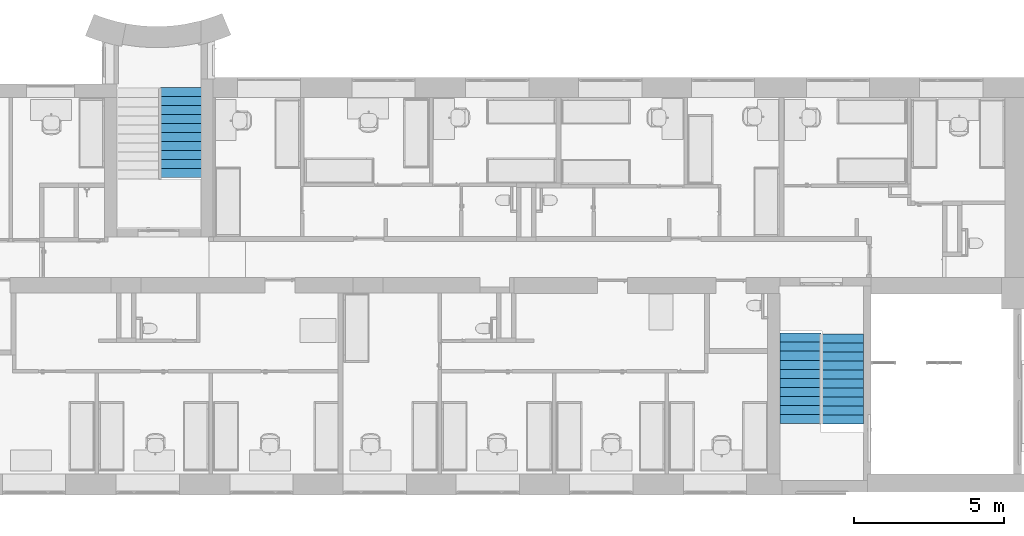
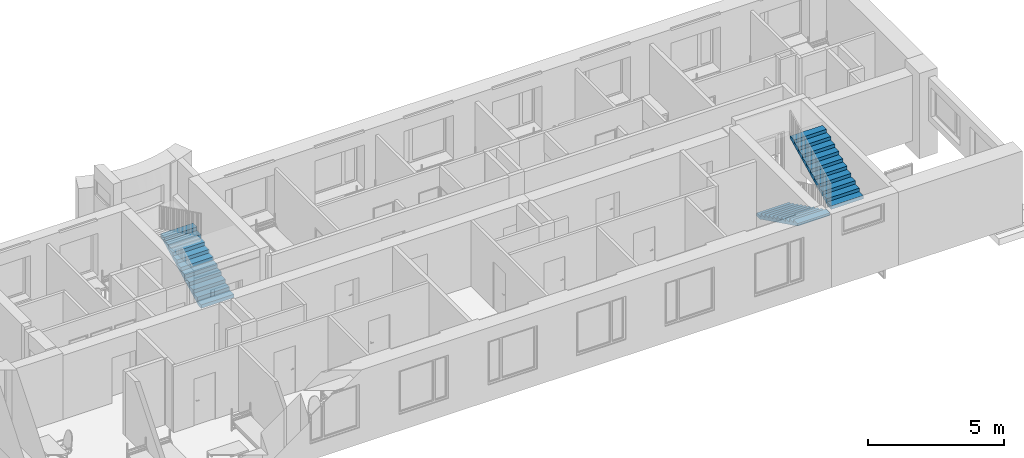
# One storey, part 21 of 46: 3 stair flights, 3 elements without a shape of their own.
"""IFC2X3 building model written with IfcOpenShell, lengths in millimetres."""

import ifcopenshell
import ifcopenshell.guid

model = None  # the IFC model being written
_history = None  # IfcOwnerHistory: only IFC2X3 demands one
_inside = {}  # id of a spatial element -> (the spatial element, [elements in it])
_under = {}  # id of a project, library or spatial element -> (it, [spatial elements below it])
_declared = {}  # id of a project -> (the project, [libraries it declares])
_typed = {}  # id of a type object -> (the type object, [elements of that type])
_made_of = {}  # id of a material, layer set ... -> (it, [elements and type objects made of it])


def new_model(schema):
    """Start an empty IFC model of exactly this schema.

    Asked for "IFC4X3", IfcOpenShell would pick the latest addendum, in which some entities
    have other attributes; the version numbers below select the first issue.
    IFC2X3 requires an IfcOwnerHistory on every rooted entity: one is made here for all.
    """
    global model, _history
    if schema == "IFC4X3":
        model = ifcopenshell.file(schema_version=(4, 3, 0, 0))
    else:
        model = ifcopenshell.file(schema=schema)
    _inside.clear()
    _under.clear()
    _declared.clear()
    _typed.clear()
    _made_of.clear()
    _history = None
    if model.schema == "IFC2X3":
        org = make("IfcOrganization", Name="unknown")
        user = make(
            "IfcPersonAndOrganization",
            ThePerson=make("IfcPerson", FamilyName="unknown"),
            TheOrganization=org,
        )
        app = make(
            "IfcApplication",
            ApplicationDeveloper=org,
            Version="unknown",
            ApplicationFullName="unknown",
            ApplicationIdentifier="unknown",
        )
        _history = make(
            "IfcOwnerHistory",
            OwningUser=user,
            OwningApplication=app,
            ChangeAction="ADDED",
            CreationDate=0,
        )
    return model


def make(cls, **values):
    """One entity of the class cls with the attributes given. An attribute that is None is left unset."""
    return model.create_entity(
        cls, **{name: value for name, value in values.items() if value is not None}
    )


def entity(cls, *values):
    """Any entity or typed value of the class cls, its attributes in the order of the schema. None: left unset."""
    e = model.create_entity(cls)
    for i, value in enumerate(values):
        if value is not None:
            e[i] = value
    return e


def rooted(cls, **values):
    """An entity with a GlobalId (a new one), such as an element, a storey or a relation."""
    return make(cls, GlobalId=ifcopenshell.guid.new(), OwnerHistory=_history, **values)


def si_unit(unit_type, name, prefix=None):
    """IfcSIUnit, for example si_unit("LENGTHUNIT", "METRE", prefix="MILLI")."""
    return make("IfcSIUnit", UnitType=unit_type, Prefix=prefix, Name=name)


def converted_unit(unit_type, name, factor, base, dimensions=None, offset=None):
    """IfcConversionBasedUnit, such as the inch: factor (a typed value) times the base unit."""
    return make(
        "IfcConversionBasedUnit"
        if offset is None
        else "IfcConversionBasedUnitWithOffset",
        ConversionOffset=offset,
        Dimensions=None
        if dimensions is None
        else entity("IfcDimensionalExponents", *dimensions),
        UnitType=unit_type,
        Name=name,
        ConversionFactor=make(
            "IfcMeasureWithUnit", ValueComponent=factor, UnitComponent=base
        ),
    )


def derived_unit(unit_type, elements):
    """IfcDerivedUnit: a product of units, each with its exponent."""
    return make(
        "IfcDerivedUnit",
        Elements=[
            make("IfcDerivedUnitElement", Unit=unit, Exponent=power)
            for unit, power in elements
        ],
        UnitType=unit_type,
    )


def assignment(units):
    """IfcUnitAssignment: the units of a project."""
    return None if units is None else make("IfcUnitAssignment", Units=units)


def point(xyz):
    """IfcCartesianPoint."""
    return None if xyz is None else make("IfcCartesianPoint", Coordinates=xyz)


def direction(xyz):
    """IfcDirection."""
    return None if xyz is None else make("IfcDirection", DirectionRatios=xyz)


def frame(location, z_axis=None, x_axis=None):
    """IfcAxis2Placement3D, a coordinate frame: its origin and axes. An axis left out is left unset."""
    return make(
        "IfcAxis2Placement3D",
        Location=point(location),
        Axis=direction(z_axis),
        RefDirection=direction(x_axis),
    )


def origin():
    """The frame at (0, 0, 0) with its axes left unset."""
    return frame((0.0, 0.0, 0.0))


def place(relative_to, where):
    """IfcLocalPlacement: puts the frame where relative to a parent placement (None: the world)."""
    return make(
        "IfcLocalPlacement", PlacementRelTo=relative_to, RelativePlacement=where
    )


def context(
    kind, dimensions, precision=None, world=None, true_north=None, identifier=None
):
    """IfcGeometricRepresentationContext, for example the 3D "Model" context."""
    return make(
        "IfcGeometricRepresentationContext",
        ContextIdentifier=identifier,
        ContextType=kind,
        CoordinateSpaceDimension=dimensions,
        Precision=precision,
        WorldCoordinateSystem=world,
        TrueNorth=true_north,
    )


def subcontext(parent, identifier, kind, view, scale=None):
    """IfcGeometricRepresentationSubContext, for example "Body" below "Model"."""
    return make(
        "IfcGeometricRepresentationSubContext",
        ContextIdentifier=identifier,
        ContextType=kind,
        ParentContext=parent,
        TargetScale=scale,
        TargetView=view,
    )


def project(units=None, contexts=None):
    """IfcProject with its units and contexts."""
    return rooted(
        "IfcProject",
        Name="project",
        RepresentationContexts=contexts,
        UnitsInContext=assignment(units),
    )


def spatial(cls, under=None, at=None, **own):
    """A site, building, storey or space (cls), placed at a placement, below another one or the project."""
    s = rooted(cls, ObjectPlacement=at, **own)
    if under is not None:
        _under.setdefault(under.id(), (under, []))[1].append(s)
    return s


def faces_of(points, faces, orient=None, outer=None):
    """IfcFace entities. A face is a list of loops; a loop is a list of indices into points, from 0.

    orient and outer hold one flag for each loop. By default every Orientation is true, the
    first loop of a face is its IfcFaceOuterBound and the others are IfcFaceBound.
    """
    made = []
    for i, loops in enumerate(faces):
        bounds = []
        for j, loop in enumerate(loops):
            is_outer = j == 0 if outer is None else outer[i][j]
            bounds.append(
                make(
                    "IfcFaceOuterBound" if is_outer else "IfcFaceBound",
                    Bound=make("IfcPolyLoop", Polygon=[points[k] for k in loop]),
                    Orientation=True if orient is None else orient[i][j],
                )
            )
        made.append(make("IfcFace", Bounds=bounds))
    return made


def faceted_brep(points, faces, orient=None, outer=None, voids=None):
    """IfcFacetedBrep: a solid bounded by flat faces; with voids (closed shells), ...WithVoids."""
    shared = [point(p) for p in points]
    hull = make("IfcClosedShell", CfsFaces=faces_of(shared, faces, orient, outer))
    if voids is None:
        return make("IfcFacetedBrep", Outer=hull)
    return make(
        "IfcFacetedBrepWithVoids",
        Outer=hull,
        Voids=[
            make(cls, CfsFaces=faces_of(shared, fs, o, b)) for cls, fs, o, b in voids
        ],
    )


def shape(context_of_items, identifier, shape_type, items):
    """IfcShapeRepresentation: the items that make up one representation, for example the "Body"."""
    return make(
        "IfcShapeRepresentation",
        ContextOfItems=context_of_items,
        RepresentationIdentifier=identifier,
        RepresentationType=shape_type,
        Items=items,
    )


def material(Name=None, Category=None):
    """IfcMaterial."""
    return make("IfcMaterial", Name=Name, Category=Category)


def made_of(thing, what):
    """Note that an element or type object is made of a material, layer set ...; save() writes the relation."""
    if what is not None:
        _made_of.setdefault(what.id(), (what, []))[1].append(thing)
    return thing


def type_object(cls, material=None, **own):
    """A type object (cls), such as IfcWallType, which elements share."""
    return made_of(rooted(cls, **own), material)


def element(
    cls,
    number,
    at=None,
    inside=None,
    cuts=None,
    type_object=None,
    material=None,
    context=None,
    identifier="Body",
    shape_type=None,
    held_by="IfcProductDefinitionShape",
    body=None,
    shapes=None,
    **own,
):
    """One element of the class cls, such as IfcWall. Its Tag is "e" and its number.

    at: its placement. inside: the storey or other place that contains it. cuts: it is an
    opening in that element (IfcRelVoidsElement). A single representation is given by context,
    identifier, shape_type and body (its items); several are given by shapes. held_by: the class
    of the entity that holds the representations. save() writes the other relations.
    """
    e = rooted(cls, Tag="e%d" % number, ObjectPlacement=at, **own)
    if body is not None:
        shapes = [shape(context, identifier, shape_type, body)]
    if shapes is not None:
        e.Representation = make(held_by, Representations=shapes)
    if inside is not None:
        _inside.setdefault(inside.id(), (inside, []))[1].append(e)
    if cuts is not None:
        rooted(
            "IfcRelVoidsElement", RelatingBuildingElement=cuts, RelatedOpeningElement=e
        )
    if type_object is not None:
        _typed.setdefault(type_object.id(), (type_object, []))[1].append(e)
    return made_of(e, material)


def aggregate(whole, parts):
    """IfcRelAggregates: a whole, such as a stair, and the parts it consists of."""
    return rooted("IfcRelAggregates", RelatingObject=whole, RelatedObjects=parts)


def save(model, path):
    """Write the relations noted so far, then the file.

    IfcRelAggregates (storeys below a building ...), IfcRelContainedInSpatialStructure (elements
    in a storey), IfcRelDefinesByType, IfcRelAssociatesMaterial and IfcRelDeclares: one each for
    every whole, place, type object, material and project.
    """
    for whole, parts in _under.values():
        aggregate(whole, parts)
    for where, things in _inside.values():
        rooted(
            "IfcRelContainedInSpatialStructure",
            RelatedElements=things,
            RelatingStructure=where,
        )
    for kind, things in _typed.values():
        rooted("IfcRelDefinesByType", RelatedObjects=things, RelatingType=kind)
    for what, things in _made_of.values():
        rooted("IfcRelAssociatesMaterial", RelatedObjects=things, RelatingMaterial=what)
    for by, libraries in _declared.values():
        rooted("IfcRelDeclares", RelatingContext=by, RelatedDefinitions=libraries)
    model.write(path)


model = new_model("IFC2X3")

# Units and contexts
model_context = context("Model", 3, precision=0.01, world=origin(), true_north=direction((6.12303176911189e-17, 1.0)))
body_context = subcontext(model_context, "Body", "Model", "MODEL_VIEW")
ifc_project = project(units=[si_unit("LENGTHUNIT", "METRE", prefix="MILLI"), si_unit("AREAUNIT", "SQUARE_METRE"), si_unit("VOLUMEUNIT", "CUBIC_METRE"), converted_unit("PLANEANGLEUNIT", "DEGREE", entity("IfcRatioMeasure", 0.0174532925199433), si_unit("PLANEANGLEUNIT", "RADIAN"), dimensions=[0, 0, 0, 0, 0, 0, 0]), si_unit("MASSUNIT", "GRAM", prefix="KILO"), derived_unit("MASSDENSITYUNIT", [(si_unit("MASSUNIT", "GRAM", prefix="KILO"), 1), (si_unit("LENGTHUNIT", "METRE"), -3)]), si_unit("TIMEUNIT", "SECOND"), si_unit("FREQUENCYUNIT", "HERTZ"), si_unit("THERMODYNAMICTEMPERATUREUNIT", "DEGREE_CELSIUS"), derived_unit("THERMALTRANSMITTANCEUNIT", [(si_unit("MASSUNIT", "GRAM", prefix="KILO"), 1), (si_unit("THERMODYNAMICTEMPERATUREUNIT", "KELVIN"), -1), (si_unit("TIMEUNIT", "SECOND"), -3)]), derived_unit("VOLUMETRICFLOWRATEUNIT", [(si_unit("LENGTHUNIT", "METRE"), 3), (si_unit("TIMEUNIT", "SECOND"), -1)]), si_unit("ELECTRICCURRENTUNIT", "AMPERE"), si_unit("ELECTRICVOLTAGEUNIT", "VOLT"), si_unit("POWERUNIT", "WATT"), si_unit("FORCEUNIT", "NEWTON", prefix="KILO"), si_unit("ILLUMINANCEUNIT", "LUX"), si_unit("LUMINOUSFLUXUNIT", "LUMEN"), si_unit("LUMINOUSINTENSITYUNIT", "CANDELA"), derived_unit("USERDEFINED", [(si_unit("MASSUNIT", "GRAM", prefix="KILO"), -1), (si_unit("LENGTHUNIT", "METRE"), -2), (si_unit("TIMEUNIT", "SECOND"), 3), (si_unit("LUMINOUSFLUXUNIT", "LUMEN"), 1)]), derived_unit("LINEARVELOCITYUNIT", [(si_unit("LENGTHUNIT", "METRE"), 1), (si_unit("TIMEUNIT", "SECOND"), -1)]), si_unit("PRESSUREUNIT", "PASCAL"), derived_unit("USERDEFINED", [(si_unit("LENGTHUNIT", "METRE"), -2), (si_unit("MASSUNIT", "GRAM", prefix="KILO"), 1), (si_unit("TIMEUNIT", "SECOND"), -2)]), derived_unit("LINEARFORCEUNIT", [(si_unit("MASSUNIT", "GRAM", prefix="KILO"), 1), (si_unit("LENGTHUNIT", "METRE"), 1), (si_unit("TIMEUNIT", "SECOND"), -2), (si_unit("LENGTHUNIT", "METRE"), -1)]), derived_unit("PLANARFORCEUNIT", [(si_unit("MASSUNIT", "GRAM", prefix="KILO"), 1), (si_unit("LENGTHUNIT", "METRE"), 1), (si_unit("TIMEUNIT", "SECOND"), -2), (si_unit("LENGTHUNIT", "METRE"), -2)])], contexts=[model_context])

# Site, building, storey
site_placement = place(None, origin())
site = spatial("IfcSite", under=ifc_project, at=site_placement, Name="Default", CompositionType="ELEMENT")
building_placement = place(site_placement, origin())
building = spatial("IfcBuilding", under=site, at=building_placement, Name="SMA ARH", CompositionType="ELEMENT")
storey_placement = place(building_placement, origin())
storey = spatial("IfcBuildingStorey", under=building, at=storey_placement, Name="1 Korrus", CompositionType="ELEMENT", Elevation=0.0)

# Stair, stair flight
stair_1_placement = place(storey_placement, origin())
stair_1 = element("IfcStair", 1, at=stair_1_placement, inside=storey, Name="Cast-In-Place Stair:Stair", ObjectType="Cast-In-Place Stair:Cast-In-Place Stair", ShapeType="STRAIGHT_RUN_STAIR")
ifc_material = material(Name="EST. Betoon. Armeeritud. Monteeritav(1)")
stair_flight_type_1 = type_object("IfcStairFlightType", Name="Monolithic Run:Monolithic Run", PredefinedType="NOTDEFINED")
stair_flight_1_placement = place(stair_1_placement, frame((30830.0, 1671.99162016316, 0.0)))
stair_flight_1 = element("IfcStairFlight", 2, at=stair_flight_1_placement, type_object=stair_flight_type_1, material=ifc_material, Name="Cast-In-Place Stair:Stair:916944 Run 1", ObjectType="Monolithic Run:Monolithic Run", NumberOfRiser=11, NumberOfTreads=10, RiserHeight=0.48616082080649, TreadLength=0.984251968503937, context=body_context, shape_type="Brep", body=[
    faceted_brep([(1375.0, 2700.0, 128.181818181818), (1375.0, 3000.0, 128.181818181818), (0.0, 3000.0, 128.181818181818), (0.0, 2700.0, 128.181818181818), (1375.0, 2700.0, 16.6481405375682), (1375.0, 2774.19562194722, -20.0), (1375.0, 3000.0, -20.0), (0.0, 3000.0, -20.0), (0.0, 2774.19562194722, -20.0), (0.0, 2700.0, 16.648140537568), (1375.0, 2400.0, 276.363636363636), (1375.0, 2700.0, 276.363636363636), (0.0, 2700.0, 276.363636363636), (0.0, 2400.0, 276.363636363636), (1375.0, 2400.0, 164.829958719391), (0.0, 2400.0, 164.829958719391), (1375.0, 2100.0, 424.545454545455), (1375.0, 2400.0, 424.545454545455), (0.0, 2400.0, 424.545454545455), (0.0, 2100.0, 424.545454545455), (1375.0, 2100.0, 313.011776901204), (0.0, 2100.0, 313.011776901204), (1375.0, 1800.0, 572.727272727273), (1375.0, 2100.0, 572.727272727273), (0.0, 2100.0, 572.727272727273), (0.0, 1800.0, 572.727272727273), (1375.0, 1800.0, 461.193595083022), (0.0, 1800.0, 461.193595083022), (1375.0, 1500.0, 720.909090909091), (1375.0, 1800.0, 720.909090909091), (0.0, 1800.0, 720.909090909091), (0.0, 1500.0, 720.909090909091), (1375.0, 1500.0, 609.375413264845), (0.0, 1500.0, 609.375413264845), (1375.0, 1200.0, 869.090909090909), (1375.0, 1500.0, 869.090909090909), (0.0, 1500.0, 869.090909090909), (0.0, 1200.0, 869.090909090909), (1375.0, 1200.0, 757.557231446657), (0.0, 1200.0, 757.557231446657), (1375.0, 900.0, 1017.27272727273), (1375.0, 1200.0, 1017.27272727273), (0.0, 1200.0, 1017.27272727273), (0.0, 900.0, 1017.27272727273), (1375.0, 900.0, 905.739049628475), (0.0, 900.0, 905.739049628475), (1375.0, 600.0, 1165.45454545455), (1375.0, 900.0, 1165.45454545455), (0.0, 900.0, 1165.45454545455), (0.0, 600.0, 1165.45454545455), (1375.0, 600.0, 1053.9208678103), (0.0, 600.0, 1053.9208678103), (1375.0, 300.0, 1313.63636363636), (1375.0, 600.0, 1313.63636363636), (0.0, 600.0, 1313.63636363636), (0.0, 300.0, 1313.63636363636), (1375.0, 300.0, 1202.10268599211), (0.0, 300.0, 1202.10268599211), (1375.0, 0.0, 1350.28450417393), (0.0, 0.0, 1350.28450417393), (1375.0, 0.0, 1461.81818181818), (1375.0, 300.0, 1461.81818181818), (0.0, 300.0, 1461.81818181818), (0.0, 0.0, 1461.81818181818)], [[[0, 1, 2, 3]], [[1, 0, 4, 5, 6]], [[2, 1, 6, 7]], [[3, 2, 7, 8, 9]], [[10, 11, 12, 13]], [[11, 10, 14, 4, 0]], [[0, 3, 12, 11]], [[13, 12, 3, 9, 15]], [[16, 17, 18, 19]], [[17, 16, 20, 14, 10]], [[10, 13, 18, 17]], [[19, 18, 13, 15, 21]], [[22, 23, 24, 25]], [[23, 22, 26, 20, 16]], [[16, 19, 24, 23]], [[25, 24, 19, 21, 27]], [[28, 29, 30, 31]], [[29, 28, 32, 26, 22]], [[22, 25, 30, 29]], [[31, 30, 25, 27, 33]], [[34, 35, 36, 37]], [[35, 34, 38, 32, 28]], [[28, 31, 36, 35]], [[37, 36, 31, 33, 39]], [[40, 41, 42, 43]], [[41, 40, 44, 38, 34]], [[34, 37, 42, 41]], [[43, 42, 37, 39, 45]], [[46, 47, 48, 49]], [[47, 46, 50, 44, 40]], [[40, 43, 48, 47]], [[49, 48, 43, 45, 51]], [[52, 53, 54, 55]], [[53, 52, 56, 50, 46]], [[46, 49, 54, 53]], [[55, 54, 49, 51, 57]], [[7, 6, 5, 8]], [[8, 5, 4, 14, 20, 26, 32, 38, 44, 50, 56, 58, 59, 57, 51, 45, 39, 33, 27, 21, 15, 9]], [[60, 61, 62, 63]], [[61, 60, 58, 56, 52]], [[52, 55, 62, 61]], [[63, 62, 55, 57, 59]], [[60, 63, 59, 58]]]),
])
aggregate(stair_1, [stair_flight_1])

stair_2_placement = place(storey_placement, origin())
stair_2 = element("IfcStair", 3, at=stair_2_placement, inside=storey, Name="Cast-In-Place Stair:Stair", ObjectType="Cast-In-Place Stair:Cast-In-Place Stair", ShapeType="STRAIGHT_RUN_STAIR")
stair_flight_type_2 = type_object("IfcStairFlightType", Name="Monolithic Run:Monolithic Run", PredefinedType="NOTDEFINED")
stair_flight_2_placement = place(stair_2_placement, frame((32235.0, 1647.49999999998, 0.0)))
stair_flight_2 = element("IfcStairFlight", 4, at=stair_flight_2_placement, type_object=stair_flight_type_2, material=ifc_material, Name="Cast-In-Place Stair:Stair:916967 Run 1", ObjectType="Monolithic Run:Monolithic Run", NumberOfRiser=11, NumberOfTreads=10, RiserHeight=0.486160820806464, TreadLength=0.984251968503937, context=body_context, shape_type="Brep", body=[
    faceted_brep([(0.0, 300.0, 1768.18181818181), (0.0, 0.0, 1768.18181818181), (1375.0, 0.0, 1768.18181818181), (1375.0, 300.0, 1768.18181818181), (0.0, 300.0, 1656.64814053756), (0.0, 225.80437805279, 1620.0), (0.0, 0.0, 1620.0), (1375.0, 0.0, 1620.0), (1375.0, 225.80437805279, 1620.0), (1375.0, 300.0, 1656.64814053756), (0.0, 600.0, 1916.36363636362), (0.0, 300.0, 1916.36363636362), (1375.0, 300.0, 1916.36363636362), (1375.0, 600.0, 1916.36363636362), (0.0, 600.0, 1804.82995871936), (1375.0, 600.0, 1804.82995871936), (0.0, 900.0, 2064.54545454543), (0.0, 600.0, 2064.54545454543), (1375.0, 600.0, 2064.54545454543), (1375.0, 900.0, 2064.54545454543), (0.0, 900.0, 1953.01177690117), (1375.0, 900.0, 1953.01177690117), (0.0, 1200.0, 2212.72727272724), (0.0, 900.0, 2212.72727272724), (1375.0, 900.0, 2212.72727272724), (1375.0, 1200.0, 2212.72727272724), (0.0, 1200.0, 2101.19359508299), (1375.0, 1200.0, 2101.19359508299), (0.0, 1500.0, 2360.90909090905), (0.0, 1200.0, 2360.90909090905), (1375.0, 1200.0, 2360.90909090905), (1375.0, 1500.0, 2360.90909090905), (0.0, 1500.0, 2249.3754132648), (1375.0, 1500.0, 2249.3754132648), (0.0, 1800.0, 2509.09090909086), (0.0, 1500.0, 2509.09090909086), (1375.0, 1500.0, 2509.09090909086), (1375.0, 1800.0, 2509.09090909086), (0.0, 1800.0, 2397.55723144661), (1375.0, 1800.0, 2397.55723144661), (0.0, 2100.0, 2657.27272727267), (0.0, 1800.0, 2657.27272727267), (1375.0, 1800.0, 2657.27272727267), (1375.0, 2100.0, 2657.27272727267), (0.0, 2100.0, 2545.73904962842), (1375.0, 2100.0, 2545.73904962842), (0.0, 2400.0, 2805.45454545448), (0.0, 2100.0, 2805.45454545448), (1375.0, 2100.0, 2805.45454545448), (1375.0, 2400.0, 2805.45454545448), (0.0, 2400.0, 2693.92086781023), (1375.0, 2400.0, 2693.92086781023), (0.0, 2700.0, 2953.63636363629), (0.0, 2400.0, 2953.63636363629), (1375.0, 2400.0, 2953.63636363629), (1375.0, 2700.0, 2953.63636363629), (0.0, 2700.0, 2842.10268599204), (1375.0, 2700.0, 2842.10268599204), (0.0, 3000.0, 2990.28450417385), (1375.0, 3000.0, 2990.28450417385), (0.0, 3000.0, 3101.8181818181), (0.0, 2700.0, 3101.8181818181), (1375.0, 2700.0, 3101.8181818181), (1375.0, 3000.0, 3101.8181818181)], [[[0, 1, 2, 3]], [[1, 0, 4, 5, 6]], [[2, 1, 6, 7]], [[3, 2, 7, 8, 9]], [[10, 11, 12, 13]], [[11, 10, 14, 4, 0]], [[0, 3, 12, 11]], [[13, 12, 3, 9, 15]], [[16, 17, 18, 19]], [[17, 16, 20, 14, 10]], [[10, 13, 18, 17]], [[19, 18, 13, 15, 21]], [[22, 23, 24, 25]], [[23, 22, 26, 20, 16]], [[16, 19, 24, 23]], [[25, 24, 19, 21, 27]], [[28, 29, 30, 31]], [[29, 28, 32, 26, 22]], [[22, 25, 30, 29]], [[31, 30, 25, 27, 33]], [[34, 35, 36, 37]], [[35, 34, 38, 32, 28]], [[28, 31, 36, 35]], [[37, 36, 31, 33, 39]], [[40, 41, 42, 43]], [[41, 40, 44, 38, 34]], [[34, 37, 42, 41]], [[43, 42, 37, 39, 45]], [[46, 47, 48, 49]], [[47, 46, 50, 44, 40]], [[40, 43, 48, 47]], [[49, 48, 43, 45, 51]], [[52, 53, 54, 55]], [[53, 52, 56, 50, 46]], [[46, 49, 54, 53]], [[55, 54, 49, 51, 57]], [[7, 6, 5, 8]], [[8, 5, 4, 14, 20, 26, 32, 38, 44, 50, 56, 58, 59, 57, 51, 45, 39, 33, 27, 21, 15, 9]], [[60, 61, 62, 63]], [[61, 60, 58, 56, 52]], [[52, 55, 62, 61]], [[63, 62, 55, 57, 59]], [[60, 63, 59, 58]]]),
])
aggregate(stair_2, [stair_flight_2])

stair_3_placement = place(storey_placement, origin())
stair_3 = element("IfcStair", 5, at=stair_3_placement, inside=storey, Name="Cast-In-Place Stair:Stair", ObjectType="Cast-In-Place Stair:Cast-In-Place Stair", ShapeType="STRAIGHT_RUN_STAIR")
stair_flight_type_3 = type_object("IfcStairFlightType", Name="Monolithic Run:Monolithic Run", PredefinedType="STRAIGHT")
stair_flight_3_placement = place(stair_3_placement, frame((10255.0, 9840.0, 0.0)))
stair_flight_3 = element("IfcStairFlight", 6, at=stair_flight_3_placement, type_object=stair_flight_type_3, material=ifc_material, Name="Cast-In-Place Stair:Stair:1067786 Run 1", ObjectType="Monolithic Run:Monolithic Run", NumberOfRiser=11, NumberOfTreads=10, RiserHeight=0.504056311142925, TreadLength=0.984251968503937, context=body_context, shape_type="Brep", body=[
    faceted_brep([(0.0, 300.0, 63.6363636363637), (0.0, 0.0, 63.6363636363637), (1375.0, 0.0, 63.6363636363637), (1375.0, 300.0, 63.6363636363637), (0.0, 300.0, -48.7143433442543), (0.0, 219.383037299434, -90.0), (0.0, 0.0, -90.0), (1375.0, 0.0, -90.0), (1375.0, 219.383037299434, -90.0), (1375.0, 300.0, -48.7143433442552), (0.0, 600.0, 217.272727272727), (0.0, 300.0, 217.272727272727), (1375.0, 300.0, 217.272727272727), (1375.0, 600.0, 217.272727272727), (0.0, 600.0, 104.922020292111), (1375.0, 600.0, 104.92202029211), (0.0, 900.0, 370.909090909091), (0.0, 600.0, 370.909090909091), (1375.0, 600.0, 370.909090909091), (1375.0, 900.0, 370.909090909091), (0.0, 900.0, 258.558383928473), (1375.0, 900.0, 258.558383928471), (0.0, 1200.0, 524.545454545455), (0.0, 900.0, 524.545454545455), (1375.0, 900.0, 524.545454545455), (1375.0, 1200.0, 524.545454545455), (0.0, 1200.0, 412.194747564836), (1375.0, 1200.0, 412.194747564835), (0.0, 1500.0, 678.181818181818), (0.0, 1200.0, 678.181818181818), (1375.0, 1200.0, 678.181818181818), (1375.0, 1500.0, 678.181818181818), (0.0, 1500.0, 565.8311112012), (1375.0, 1500.0, 565.831111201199), (0.0, 1800.0, 831.818181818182), (0.0, 1500.0, 831.818181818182), (1375.0, 1500.0, 831.818181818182), (1375.0, 1800.0, 831.818181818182), (0.0, 1800.0, 719.467474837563), (1375.0, 1800.0, 719.467474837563), (0.0, 2100.0, 985.454545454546), (0.0, 1800.0, 985.454545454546), (1375.0, 1800.0, 985.454545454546), (1375.0, 2100.0, 985.454545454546), (0.0, 2100.0, 873.103838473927), (1375.0, 2100.0, 873.103838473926), (0.0, 2400.0, 1139.09090909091), (0.0, 2100.0, 1139.09090909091), (1375.0, 2100.0, 1139.09090909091), (1375.0, 2400.0, 1139.09090909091), (0.0, 2400.0, 1026.74020211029), (1375.0, 2400.0, 1026.74020211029), (0.0, 2700.0, 1180.37656574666), (0.0, 3000.0, 1334.01292938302), (1375.0, 3000.0, 1334.01292938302), (1375.0, 2700.0, 1180.37656574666), (0.0, 2700.0, 1292.72727272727), (0.0, 2400.0, 1292.72727272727), (1375.0, 2400.0, 1292.72727272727), (1375.0, 2700.0, 1292.72727272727), (0.0, 3000.0, 1446.36363636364), (0.0, 2700.0, 1446.36363636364), (1375.0, 2700.0, 1446.36363636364), (1375.0, 3000.0, 1446.36363636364)], [[[0, 1, 2, 3]], [[1, 0, 4, 5, 6]], [[2, 1, 6, 7]], [[3, 2, 7, 8, 9]], [[10, 11, 12, 13]], [[11, 10, 14, 4, 0]], [[0, 3, 12, 11]], [[13, 12, 3, 9, 15]], [[16, 17, 18, 19]], [[17, 16, 20, 14, 10]], [[10, 13, 18, 17]], [[19, 18, 13, 15, 21]], [[22, 23, 24, 25]], [[23, 22, 26, 20, 16]], [[16, 19, 24, 23]], [[25, 24, 19, 21, 27]], [[28, 29, 30, 31]], [[29, 28, 32, 26, 22]], [[22, 25, 30, 29]], [[31, 30, 25, 27, 33]], [[34, 35, 36, 37]], [[35, 34, 38, 32, 28]], [[28, 31, 36, 35]], [[37, 36, 31, 33, 39]], [[40, 41, 42, 43]], [[41, 40, 44, 38, 34]], [[34, 37, 42, 41]], [[43, 42, 37, 39, 45]], [[46, 47, 48, 49]], [[47, 46, 50, 44, 40]], [[40, 43, 48, 47]], [[49, 48, 43, 45, 51]], [[7, 6, 5, 8]], [[8, 5, 4, 14, 20, 26, 32, 38, 44, 50, 52, 53, 54, 55, 51, 45, 39, 33, 27, 21, 15, 9]], [[56, 57, 58, 59]], [[57, 56, 52, 50, 46]], [[46, 49, 58, 57]], [[59, 58, 49, 51, 55]], [[60, 61, 62, 63]], [[61, 60, 53, 52, 56]], [[56, 59, 62, 61]], [[63, 62, 59, 55, 54]], [[60, 63, 54, 53]]]),
])
aggregate(stair_3, [stair_flight_3])

save(model, "model.ifc")
